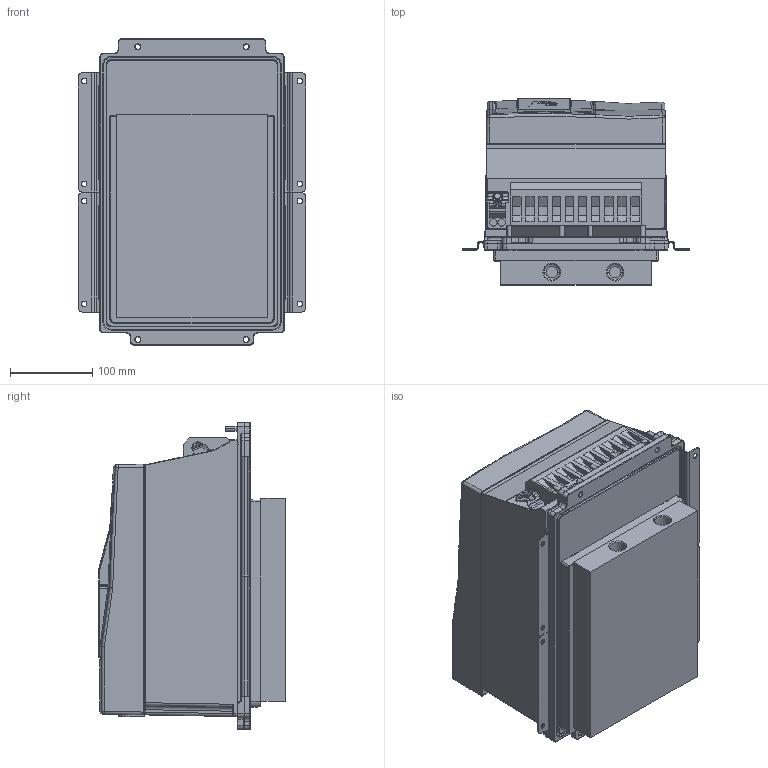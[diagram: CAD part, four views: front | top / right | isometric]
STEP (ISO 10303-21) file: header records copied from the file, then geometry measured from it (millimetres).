
FILE_DESCRIPTION (( 'STEP AP214' ), '1' );
FILE_NAME ('F6-4TK5-A030.STEP', '2020-12-10T11:16:35', ( '' ), ( '' ), 'SwSTEP 2.0', 'SolidWorks 2019', '' );
FILE_SCHEMA (( 'AUTOMOTIVE_DESIGN' ));
Length unit declared in the file: millimetre
Products named in the file (11): 10032600_000_Kundenmodell; 10060692_000_Leistungsteil TK5 (Kundenmodell); 10059765_000; 10059763_000; 10059764_000_Blindabdeckung (Kundenmodell); 10061645_000; 10060814_000; 10058448_000; 10035736_000_Kundenmodell; F6-4TK5-A030; 10061644_000_Deckel (Kundenmodell)
Assembly tree (10 placements, depth 4):
  F6-4TK5-A030
    10060692_000_Leistungsteil TK5 (Kundenmodell)
      10060814_000
    10032600_000_Kundenmodell
      10061644_000_Deckel (Kundenmodell)
        10061645_000
      10058448_000
    10035736_000_Kundenmodell
      10059764_000_Blindabdeckung (Kundenmodell)
        10059765_000
      10059763_000
Bounding box: 277 x 226.7 x 373 mm (x, y, z)
Volume: 14433142.5 mm3; surface area: 856796.1 mm2
Topology: 11 solids, 26 shells, 2719 faces, 6962 edges, 4331 vertices
Faces by surface type: plane 1156, cylinder 678, bspline 543, torus 183, cone 119, sphere 40
Entity records: 109141 total; most frequent: CARTESIAN_POINT 40797, ORIENTED_EDGE 13806, DIRECTION 11660, EDGE_CURVE 6903, VERTEX_POINT 4329, VECTOR 3904, LINE 3904, AXIS2_PLACEMENT_3D 3878
